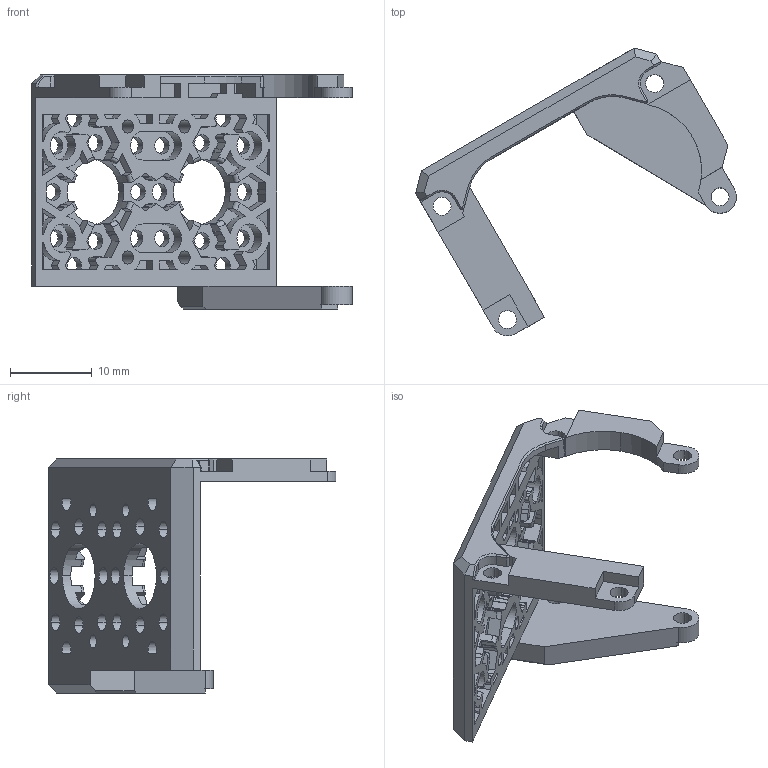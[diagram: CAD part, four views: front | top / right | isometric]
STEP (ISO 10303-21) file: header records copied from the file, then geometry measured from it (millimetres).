
FILE_DESCRIPTION (( 'STEP AP203' ), '1' );
FILE_NAME ('middle_1.STEP', '2026-09-17T13:01:53', ( '' ), ( '' ), 'SwSTEP 2.0', 'SolidWorks 2024', '' );
FILE_SCHEMA (( 'CONFIG_CONTROL_DESIGN' ));
Length unit declared in the file: millimetre
Products named in the file (2): fpx330-s102(改)_默认; middle_1
Assembly tree (1 placements, depth 2):
  middle_1
    fpx330-s102(改)_默认
Bounding box: 39.21 x 35.19 x 28.6 mm (x, y, z)
Volume: 2539.9 mm3; surface area: 3837.5 mm2
Topology: 1 solids, 1 shells, 614 faces, 1698 edges, 1101 vertices
Faces by surface type: plane 465, cylinder 122, torus 16, cone 11
Entity records: 19798 total; most frequent: CARTESIAN_POINT 3612, ORIENTED_EDGE 3396, DIRECTION 3216, EDGE_CURVE 1698, VECTOR 1334, LINE 1334, VERTEX_POINT 1101, AXIS2_PLACEMENT_3D 941
